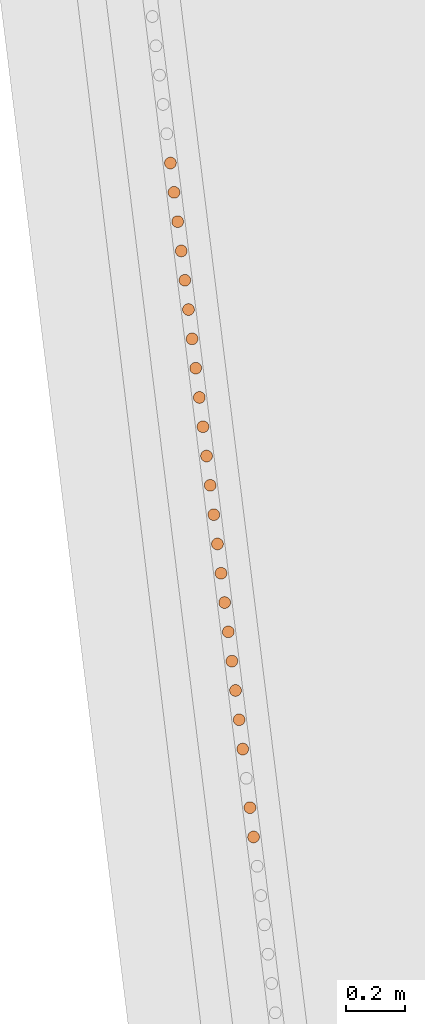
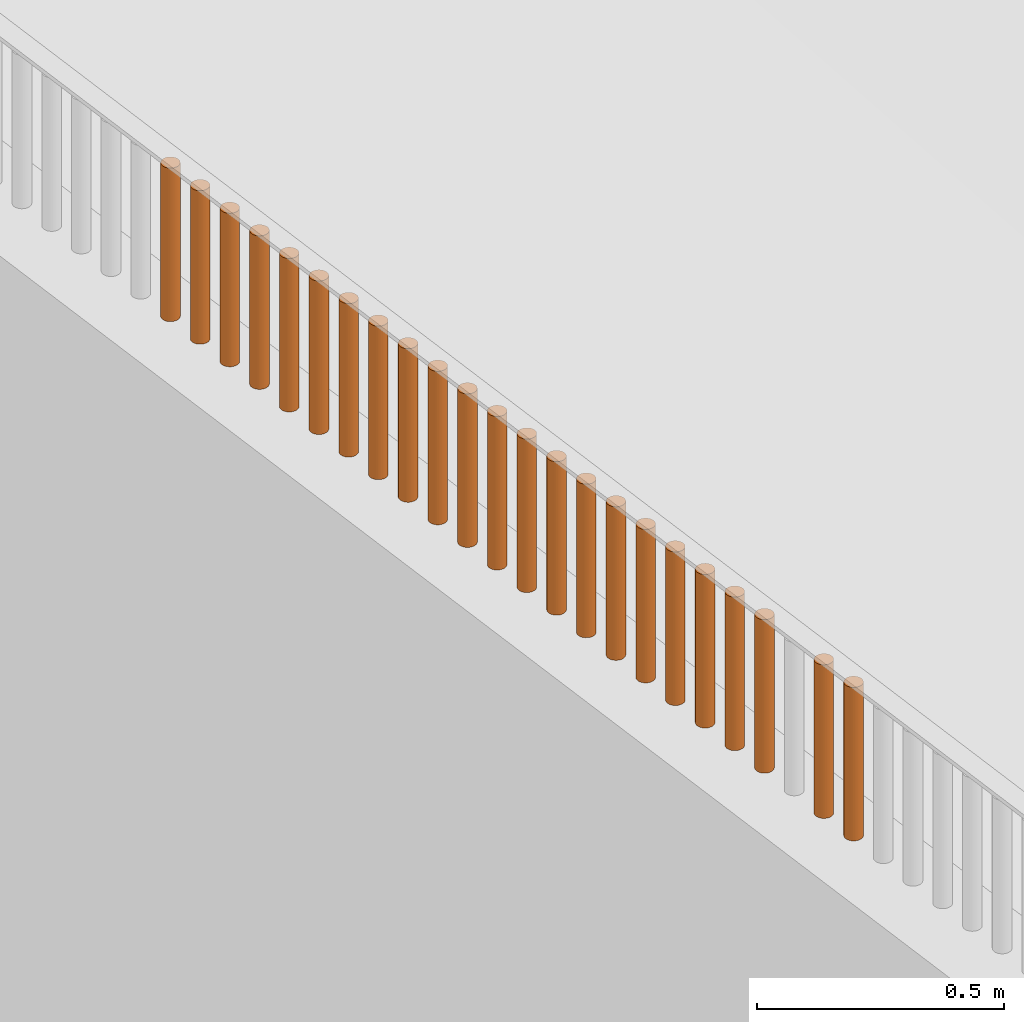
# One storey, part 232 of 1809: 23 proxies, 1 element without a shape of its own.
"""IFC2X3 building model written with IfcOpenShell, lengths in millimetres."""

from ifc_helpers import new_model, entity, si_unit, converted_unit, derived_unit, money_unit, direction, frame, origin_with_axes, place, context, subcontext, project, spatial, faceted_brep, source, transform, mapped, material, type_object, element, aggregate, save


model = new_model("IFC2X3")

# Units and contexts
model_context = context("Model", 3, precision=0.01, world=origin_with_axes(), true_north=direction((0.0, 1.0)))
body_context = subcontext(model_context, "Body", "Model", "MODEL_VIEW")
ifc_project = project(units=[si_unit("LENGTHUNIT", "METRE", prefix="MILLI"), si_unit("AREAUNIT", "SQUARE_METRE"), si_unit("VOLUMEUNIT", "CUBIC_METRE"), converted_unit("PLANEANGLEUNIT", "DEGREE", entity("IfcPlaneAngleMeasure", 0.0174532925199), si_unit("PLANEANGLEUNIT", "RADIAN"), dimensions=[0, 0, 0, 0, 0, 0, 0]), si_unit("SOLIDANGLEUNIT", "STERADIAN"), money_unit("EUR"), converted_unit("TIMEUNIT", "Year", entity("IfcTimeMeasure", 31556926.0), si_unit("TIMEUNIT", "SECOND"), dimensions=[0, 0, 1, 0, 0, 0, 0]), si_unit("MASSUNIT", "GRAM", prefix="KILO"), si_unit("THERMODYNAMICTEMPERATUREUNIT", "DEGREE_CELSIUS"), si_unit("LUMINOUSINTENSITYUNIT", "LUMEN"), si_unit("ENERGYUNIT", "JOULE", prefix="MEGA"), derived_unit("THERMALCONDUCTANCEUNIT", [(si_unit("POWERUNIT", "WATT"), 1), (si_unit("LENGTHUNIT", "METRE"), -1), (si_unit("THERMODYNAMICTEMPERATUREUNIT", "KELVIN"), -1)]), derived_unit("SPECIFICHEATCAPACITYUNIT", [(si_unit("ENERGYUNIT", "JOULE"), 1), (si_unit("MASSUNIT", "GRAM", prefix="KILO"), -1), (si_unit("THERMODYNAMICTEMPERATUREUNIT", "KELVIN"), -1)]), derived_unit("MASSDENSITYUNIT", [(si_unit("MASSUNIT", "GRAM", prefix="KILO"), 1), (si_unit("VOLUMEUNIT", "CUBIC_METRE"), -1)])], contexts=[model_context])

# Site, building, storey
site_placement = place(None, origin_with_axes())
site = spatial("IfcSite", under=ifc_project, at=site_placement, Name="Politse- ja Piirivalveameti ning Päästeameti ühishoone", CompositionType="ELEMENT")
building_placement = place(site_placement, origin_with_axes())
building = spatial("IfcBuilding", under=site, at=building_placement, Name="Politse- ja Piirivalveameti ning Päästeameti ühishoone", CompositionType="ELEMENT")
storey_placement = place(building_placement, origin_with_axes())
storey = spatial("IfcBuildingStorey", under=building, at=storey_placement, Name="Esimene korrus", CompositionType="ELEMENT", Elevation=0.0)

# Proxies
building_element_proxy_type_1 = type_object("IfcBuildingElementProxyType", Name="Railing Type", PredefinedType="NOTDEFINED")
proxy_1_placement = place(storey_placement, frame((-18956.5522504, -53688.4757966, 2100.0), z_axis=(0.0, 0.0, 1.0), x_axis=(1.0, 0.0, 0.0)))
proxy_1 = element("IfcBuildingElementProxy", 1, at=proxy_1_placement, inside=storey, type_object=building_element_proxy_type_1, Name="PIIRDEAED")
ifc_material = material(Name="ET-06_Teras - Konstruktsioon")
building_element_proxy_type_2 = type_object("IfcBuildingElementProxyType", Name="IfcBuildingElementProxy", PredefinedType="NOTDEFINED")
shared_shape_1 = source(origin_with_axes(), body_context, "Body", "Brep", [
    faceted_brep([(0.0, -20.0, 0.0), (3.47296355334, -19.6961550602, 0.0), (3.47296355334, -19.6961550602, 380.000012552), (0.0, -20.0, 380.000012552), (-3.47296355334, -19.6961550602, 0.0), (-6.84040286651, -18.7938524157, 0.0), (-10.0, -17.3205080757, 0.0), (-12.8557521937, -15.3208888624, 0.0), (-15.3208888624, -12.8557521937, 0.0), (-17.3205080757, -10.0, 0.0), (-18.7938524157, -6.84040286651, 0.0), (-19.6961550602, -3.47296355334, 0.0), (-20.0, 0.0, 0.0), (-19.6961550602, 3.47296355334, 0.0), (-18.7938524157, 6.84040286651, 0.0), (-17.3205080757, 10.0, 0.0), (-15.3208888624, 12.8557521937, 0.0), (-12.8557521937, 15.3208888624, 0.0), (-10.0, 17.3205080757, 0.0), (-6.84040286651, 18.7938524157, 0.0), (-3.47296355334, 19.6961550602, 0.0), (0.0, 20.0, 0.0), (3.47296355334, 19.6961550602, 0.0), (6.84040286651, 18.7938524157, 0.0), (10.0, 17.3205080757, 0.0), (12.8557521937, 15.3208888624, 0.0), (15.3208888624, 12.8557521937, 0.0), (17.3205080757, 10.0, 0.0), (18.7938524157, 6.84040286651, 0.0), (19.6961550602, 3.47296355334, 0.0), (20.0, 0.0, 0.0), (19.6961550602, -3.47296355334, 0.0), (18.7938524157, -6.84040286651, 0.0), (17.3205080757, -10.0, 0.0), (15.3208888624, -12.8557521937, 0.0), (12.8557521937, -15.3208888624, 0.0), (10.0, -17.3205080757, 0.0), (6.84040286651, -18.7938524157, 0.0), (6.84040286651, -18.7938524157, 380.000012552), (10.0, -17.3205080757, 380.000012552), (12.8557521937, -15.3208888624, 380.000012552), (15.3208888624, -12.8557521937, 380.000012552), (17.3205080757, -10.0, 380.000012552), (18.7938524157, -6.84040286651, 380.000012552), (19.6961550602, -3.47296355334, 380.000012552), (20.0, 0.0, 380.000012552), (19.6961550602, 3.47296355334, 380.000012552), (18.7938524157, 6.84040286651, 380.000012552), (17.3205080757, 10.0, 380.000012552), (15.3208888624, 12.8557521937, 380.000012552), (12.8557521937, 15.3208888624, 380.000012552), (10.0, 17.3205080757, 380.000012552), (6.84040286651, 18.7938524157, 380.000012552), (3.47296355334, 19.6961550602, 380.000012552), (0.0, 20.0, 380.000012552), (-3.47296355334, 19.6961550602, 380.000012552), (-6.84040286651, 18.7938524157, 380.000012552), (-10.0, 17.3205080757, 380.000012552), (-12.8557521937, 15.3208888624, 380.000012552), (-15.3208888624, 12.8557521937, 380.000012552), (-17.3205080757, 10.0, 380.000012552), (-18.7938524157, 6.84040286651, 380.000012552), (-19.6961550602, 3.47296355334, 380.000012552), (-20.0, 0.0, 380.000012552), (-19.6961550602, -3.47296355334, 380.000012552), (-18.7938524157, -6.84040286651, 380.000012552), (-17.3205080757, -10.0, 380.000012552), (-15.3208888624, -12.8557521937, 380.000012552), (-12.8557521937, -15.3208888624, 380.000012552), (-10.0, -17.3205080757, 380.000012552), (-6.84040286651, -18.7938524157, 380.000012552), (-3.47296355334, -19.6961550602, 380.000012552)], [[[0, 1, 2, 3]], [[0, 4, 5, 6, 7, 8, 9, 10, 11, 12, 13, 14, 15, 16, 17, 18, 19, 20, 21, 22, 23, 24, 25, 26, 27, 28, 29, 30, 31, 32, 33, 34, 35, 36, 37, 1]], [[1, 37, 38, 2]], [[3, 2, 38, 39, 40, 41, 42, 43, 44, 45, 46, 47, 48, 49, 50, 51, 52, 53, 54, 55, 56, 57, 58, 59, 60, 61, 62, 63, 64, 65, 66, 67, 68, 69, 70, 71]], [[4, 0, 3, 71]], [[5, 4, 71, 70]], [[6, 5, 70, 69]], [[7, 6, 69, 68]], [[8, 7, 68, 67]], [[9, 8, 67, 66]], [[10, 9, 66, 65]], [[11, 10, 65, 64]], [[12, 11, 64, 63]], [[13, 12, 63, 62]], [[14, 13, 62, 61]], [[15, 14, 61, 60]], [[16, 15, 60, 59]], [[17, 16, 59, 58]], [[18, 17, 58, 57]], [[19, 18, 57, 56]], [[20, 19, 56, 55]], [[21, 20, 55, 54]], [[22, 21, 54, 53]], [[23, 22, 53, 52]], [[24, 23, 52, 51]], [[25, 24, 51, 50]], [[26, 25, 50, 49]], [[27, 26, 49, 48]], [[28, 27, 48, 47]], [[29, 28, 47, 46]], [[30, 29, 46, 45]], [[31, 30, 45, 44]], [[32, 31, 44, 43]], [[33, 32, 43, 42]], [[34, 33, 42, 41]], [[35, 34, 41, 40]], [[36, 35, 40, 39]], [[37, 36, 39, 38]]]),
])
proxy_2_placement = place(proxy_1_placement, frame((-7208.93939724, 57569.3920033, -1.25517001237e-05), z_axis=(0.0, 0.0, 1.0), x_axis=(1.0, 0.0, 0.0)))
proxy_2 = element("IfcBuildingElementProxy", 2, at=proxy_2_placement, type_object=building_element_proxy_type_2, material=ifc_material, Name="BALUSTER - 001", context=body_context, shape_type="MappedRepresentation", body=[
    mapped(shared_shape_1, transform((0.0, 0.0, 0.0), x_axis=(0.992468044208, 0.122503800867, 0.0), y_axis=(-0.122503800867, 0.992468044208, 0.0), z_axis=(0.0, 0.0, 1.0))),
])
proxy_3_placement = place(proxy_1_placement, frame((-7221.18710215, 57668.6171347, -1.25517001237e-05), z_axis=(0.0, 0.0, 1.0), x_axis=(1.0, 0.0, 0.0)))
proxy_3 = element("IfcBuildingElementProxy", 3, at=proxy_3_placement, type_object=building_element_proxy_type_2, material=ifc_material, Name="BALUSTER - 001", context=body_context, shape_type="MappedRepresentation", body=[
    mapped(shared_shape_1, transform((0.0, 0.0, 0.0), x_axis=(0.992468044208, 0.122503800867, 0.0), y_axis=(-0.122503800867, 0.992468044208, 0.0), z_axis=(0.0, 0.0, 1.0))),
])
proxy_4_placement = place(proxy_1_placement, frame((-7233.43480707, 57767.8422661, -1.25517001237e-05), z_axis=(0.0, 0.0, 1.0), x_axis=(1.0, 0.0, 0.0)))
proxy_4 = element("IfcBuildingElementProxy", 4, at=proxy_4_placement, type_object=building_element_proxy_type_2, material=ifc_material, Name="BALUSTER - 001", context=body_context, shape_type="MappedRepresentation", body=[
    mapped(shared_shape_1, transform((0.0, 0.0, 0.0), x_axis=(0.992468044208, 0.122503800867, 0.0), y_axis=(-0.122503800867, 0.992468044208, 0.0), z_axis=(0.0, 0.0, 1.0))),
])
proxy_5_placement = place(proxy_1_placement, frame((-7245.68251198, 57867.0673975, -1.25517001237e-05), z_axis=(0.0, 0.0, 1.0), x_axis=(1.0, 0.0, 0.0)))
proxy_5 = element("IfcBuildingElementProxy", 5, at=proxy_5_placement, type_object=building_element_proxy_type_2, material=ifc_material, Name="BALUSTER - 001", context=body_context, shape_type="MappedRepresentation", body=[
    mapped(shared_shape_1, transform((0.0, 0.0, 0.0), x_axis=(0.992468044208, 0.122503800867, 0.0), y_axis=(-0.122503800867, 0.992468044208, 0.0), z_axis=(0.0, 0.0, 1.0))),
])
proxy_6_placement = place(proxy_1_placement, frame((-7257.93021689, 57966.292529, -1.25517001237e-05), z_axis=(0.0, 0.0, 1.0), x_axis=(1.0, 0.0, 0.0)))
proxy_6 = element("IfcBuildingElementProxy", 6, at=proxy_6_placement, type_object=building_element_proxy_type_2, material=ifc_material, Name="BALUSTER - 001", context=body_context, shape_type="MappedRepresentation", body=[
    mapped(shared_shape_1, transform((0.0, 0.0, 0.0), x_axis=(0.992468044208, 0.122503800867, 0.0), y_axis=(-0.122503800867, 0.992468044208, 0.0), z_axis=(0.0, 0.0, 1.0))),
])
proxy_7_placement = place(proxy_1_placement, frame((-7270.17792181, 58065.5176604, -1.25517001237e-05), z_axis=(0.0, 0.0, 1.0), x_axis=(1.0, 0.0, 0.0)))
proxy_7 = element("IfcBuildingElementProxy", 7, at=proxy_7_placement, type_object=building_element_proxy_type_2, material=ifc_material, Name="BALUSTER - 001", context=body_context, shape_type="MappedRepresentation", body=[
    mapped(shared_shape_1, transform((0.0, 0.0, 0.0), x_axis=(0.992468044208, 0.122503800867, 0.0), y_axis=(-0.122503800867, 0.992468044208, 0.0), z_axis=(0.0, 0.0, 1.0))),
])
proxy_8_placement = place(proxy_1_placement, frame((-7282.42562672, 58164.7427918, -1.25517001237e-05), z_axis=(0.0, 0.0, 1.0), x_axis=(1.0, 0.0, 0.0)))
proxy_8 = element("IfcBuildingElementProxy", 8, at=proxy_8_placement, type_object=building_element_proxy_type_2, material=ifc_material, Name="BALUSTER - 001", context=body_context, shape_type="MappedRepresentation", body=[
    mapped(shared_shape_1, transform((0.0, 0.0, 0.0), x_axis=(0.992468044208, 0.122503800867, 0.0), y_axis=(-0.122503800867, 0.992468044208, 0.0), z_axis=(0.0, 0.0, 1.0))),
])
proxy_9_placement = place(proxy_1_placement, frame((-7343.66415129, 58660.868449, -1.25517001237e-05), z_axis=(0.0, 0.0, 1.0), x_axis=(1.0, 0.0, 0.0)))
proxy_9 = element("IfcBuildingElementProxy", 9, at=proxy_9_placement, type_object=building_element_proxy_type_2, material=ifc_material, Name="BALUSTER - 001", context=body_context, shape_type="MappedRepresentation", body=[
    mapped(shared_shape_1, transform((0.0, 0.0, 0.0), x_axis=(0.992468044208, 0.122503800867, 0.0), y_axis=(-0.122503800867, 0.992468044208, 0.0), z_axis=(0.0, 0.0, 1.0))),
])
proxy_10_placement = place(proxy_1_placement, frame((-7368.15956111, 58859.3187118, -1.25517001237e-05), z_axis=(0.0, 0.0, 1.0), x_axis=(1.0, 0.0, 0.0)))
proxy_10 = element("IfcBuildingElementProxy", 10, at=proxy_10_placement, type_object=building_element_proxy_type_2, material=ifc_material, Name="BALUSTER - 001", context=body_context, shape_type="MappedRepresentation", body=[
    mapped(shared_shape_1, transform((0.0, 0.0, 0.0), x_axis=(0.992468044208, 0.122503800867, 0.0), y_axis=(-0.122503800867, 0.992468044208, 0.0), z_axis=(0.0, 0.0, 1.0))),
])
proxy_11_placement = place(proxy_1_placement, frame((-7392.65497094, 59057.7689747, -1.25517001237e-05), z_axis=(0.0, 0.0, 1.0), x_axis=(1.0, 0.0, 0.0)))
proxy_11 = element("IfcBuildingElementProxy", 11, at=proxy_11_placement, type_object=building_element_proxy_type_2, material=ifc_material, Name="BALUSTER - 001", context=body_context, shape_type="MappedRepresentation", body=[
    mapped(shared_shape_1, transform((0.0, 0.0, 0.0), x_axis=(0.992468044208, 0.122503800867, 0.0), y_axis=(-0.122503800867, 0.992468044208, 0.0), z_axis=(0.0, 0.0, 1.0))),
])
proxy_12_placement = place(proxy_1_placement, frame((-7404.90267585, 59156.9941061, -1.25517001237e-05), z_axis=(0.0, 0.0, 1.0), x_axis=(1.0, 0.0, 0.0)))
proxy_12 = element("IfcBuildingElementProxy", 12, at=proxy_12_placement, type_object=building_element_proxy_type_2, material=ifc_material, Name="BALUSTER - 001", context=body_context, shape_type="MappedRepresentation", body=[
    mapped(shared_shape_1, transform((0.0, 0.0, 0.0), x_axis=(0.992468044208, 0.122503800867, 0.0), y_axis=(-0.122503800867, 0.992468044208, 0.0), z_axis=(0.0, 0.0, 1.0))),
])
proxy_13_placement = place(proxy_1_placement, frame((-7417.15038076, 59256.2192375, -1.25517001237e-05), z_axis=(0.0, 0.0, 1.0), x_axis=(1.0, 0.0, 0.0)))
proxy_13 = element("IfcBuildingElementProxy", 13, at=proxy_13_placement, type_object=building_element_proxy_type_2, material=ifc_material, Name="BALUSTER - 001", context=body_context, shape_type="MappedRepresentation", body=[
    mapped(shared_shape_1, transform((0.0, 0.0, 0.0), x_axis=(0.992468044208, 0.122503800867, 0.0), y_axis=(-0.122503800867, 0.992468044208, 0.0), z_axis=(0.0, 0.0, 1.0))),
])
shared_shape_2 = source(origin_with_axes(), body_context, "Body", "Brep", [
    faceted_brep([(0.0, -20.0, 0.0), (3.47296355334, -19.6961550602, 0.0), (3.47296355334, -19.6961550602, 380.000012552), (0.0, -20.0, 380.000012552), (-3.47296355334, -19.6961550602, 0.0), (-6.84040286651, -18.7938524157, 0.0), (-10.0, -17.3205080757, 0.0), (-12.8557521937, -15.3208888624, 0.0), (-15.3208888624, -12.8557521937, 0.0), (-17.3205080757, -10.0, 0.0), (-18.7938524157, -6.84040286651, 0.0), (-19.6961550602, -3.47296355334, 0.0), (-20.0, 0.0, 0.0), (-19.6961550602, 3.47296355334, 0.0), (-18.7938524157, 6.84040286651, 0.0), (-17.3205080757, 10.0, 0.0), (-15.3208888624, 12.8557521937, 0.0), (-12.8557521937, 15.3208888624, 0.0), (-10.0, 17.3205080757, 0.0), (-6.84040286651, 18.7938524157, 0.0), (-3.47296355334, 19.6961550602, 0.0), (0.0, 20.0, 0.0), (3.47296355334, 19.6961550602, 0.0), (6.84040286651, 18.7938524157, 0.0), (10.0, 17.3205080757, 0.0), (12.8557521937, 15.3208888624, 0.0), (15.3208888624, 12.8557521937, 0.0), (17.3205080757, 10.0, 0.0), (18.7938524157, 6.84040286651, 0.0), (19.6961550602, 3.47296355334, 0.0), (20.0, 0.0, 0.0), (19.6961550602, -3.47296355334, 0.0), (18.7938524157, -6.84040286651, 0.0), (17.3205080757, -10.0, 0.0), (15.3208888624, -12.8557521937, 0.0), (12.8557521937, -15.3208888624, 0.0), (10.0, -17.3205080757, 0.0), (6.84040286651, -18.7938524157, 0.0), (6.84040286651, -18.7938524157, 380.000012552), (10.0, -17.3205080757, 380.000012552), (12.8557521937, -15.3208888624, 380.000012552), (15.3208888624, -12.8557521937, 380.000012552), (17.3205080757, -10.0, 380.000012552), (18.7938524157, -6.84040286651, 380.000012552), (19.6961550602, -3.47296355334, 380.000012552), (20.0, 0.0, 380.000012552), (19.6961550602, 3.47296355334, 380.000012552), (18.7938524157, 6.84040286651, 380.000012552), (17.3205080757, 10.0, 380.000012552), (15.3208888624, 12.8557521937, 380.000012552), (12.8557521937, 15.3208888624, 380.000012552), (10.0, 17.3205080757, 380.000012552), (6.84040286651, 18.7938524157, 380.000012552), (3.47296355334, 19.6961550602, 380.000012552), (0.0, 20.0, 380.000012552), (-3.47296355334, 19.6961550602, 380.000012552), (-6.84040286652, 18.7938524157, 380.000012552), (-10.0, 17.3205080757, 380.000012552), (-12.8557521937, 15.3208888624, 380.000012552), (-15.3208888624, 12.8557521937, 380.000012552), (-17.3205080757, 10.0, 380.000012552), (-18.7938524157, 6.84040286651, 380.000012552), (-19.6961550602, 3.47296355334, 380.000012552), (-20.0, 0.0, 380.000012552), (-19.6961550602, -3.47296355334, 380.000012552), (-18.7938524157, -6.84040286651, 380.000012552), (-17.3205080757, -10.0, 380.000012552), (-15.3208888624, -12.8557521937, 380.000012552), (-12.8557521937, -15.3208888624, 380.000012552), (-10.0, -17.3205080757, 380.000012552), (-6.84040286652, -18.7938524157, 380.000012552), (-3.47296355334, -19.6961550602, 380.000012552)], [[[0, 1, 2, 3]], [[0, 4, 5, 6, 7, 8, 9, 10, 11, 12, 13, 14, 15, 16, 17, 18, 19, 20, 21, 22, 23, 24, 25, 26, 27, 28, 29, 30, 31, 32, 33, 34, 35, 36, 37, 1]], [[1, 37, 38, 2]], [[3, 2, 38, 39, 40, 41, 42, 43, 44, 45, 46, 47, 48, 49, 50, 51, 52, 53, 54, 55, 56, 57, 58, 59, 60, 61, 62, 63, 64, 65, 66, 67, 68, 69, 70, 71]], [[4, 0, 3, 71]], [[5, 4, 71, 70]], [[6, 5, 70, 69]], [[7, 6, 69, 68]], [[8, 7, 68, 67]], [[9, 8, 67, 66]], [[10, 9, 66, 65]], [[11, 10, 65, 64]], [[12, 11, 64, 63]], [[13, 12, 63, 62]], [[14, 13, 62, 61]], [[15, 14, 61, 60]], [[16, 15, 60, 59]], [[17, 16, 59, 58]], [[18, 17, 58, 57]], [[19, 18, 57, 56]], [[20, 19, 56, 55]], [[21, 20, 55, 54]], [[22, 21, 54, 53]], [[23, 22, 53, 52]], [[24, 23, 52, 51]], [[25, 24, 51, 50]], [[26, 25, 50, 49]], [[27, 26, 49, 48]], [[28, 27, 48, 47]], [[29, 28, 47, 46]], [[30, 29, 46, 45]], [[31, 30, 45, 44]], [[32, 31, 44, 43]], [[33, 32, 43, 42]], [[34, 33, 42, 41]], [[35, 34, 41, 40]], [[36, 35, 40, 39]], [[37, 36, 39, 38]]]),
])
proxy_14_placement = place(proxy_1_placement, frame((-7331.41644637, 58561.6433175, -1.25517001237e-05), z_axis=(0.0, 0.0, 1.0), x_axis=(1.0, 0.0, 0.0)))
proxy_14 = element("IfcBuildingElementProxy", 14, at=proxy_14_placement, type_object=building_element_proxy_type_2, material=ifc_material, Name="BALUSTER - 001", context=body_context, shape_type="MappedRepresentation", body=[
    mapped(shared_shape_2, transform((0.0, 0.0, 0.0), x_axis=(0.992468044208, 0.122503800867, 0.0), y_axis=(-0.122503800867, 0.992468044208, 0.0), z_axis=(0.0, 0.0, 1.0))),
])
proxy_15_placement = place(proxy_1_placement, frame((-7355.9118562, 58760.0935804, -1.25517001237e-05), z_axis=(0.0, 0.0, 1.0), x_axis=(1.0, 0.0, 0.0)))
proxy_15 = element("IfcBuildingElementProxy", 15, at=proxy_15_placement, type_object=building_element_proxy_type_2, material=ifc_material, Name="BALUSTER - 001", context=body_context, shape_type="MappedRepresentation", body=[
    mapped(shared_shape_2, transform((0.0, 0.0, 0.0), x_axis=(0.992468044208, 0.122503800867, 0.0), y_axis=(-0.122503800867, 0.992468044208, 0.0), z_axis=(0.0, 0.0, 1.0))),
])
proxy_16_placement = place(proxy_1_placement, frame((-7380.40726602, 58958.5438432, -1.25517001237e-05), z_axis=(0.0, 0.0, 1.0), x_axis=(1.0, 0.0, 0.0)))
proxy_16 = element("IfcBuildingElementProxy", 16, at=proxy_16_placement, type_object=building_element_proxy_type_2, material=ifc_material, Name="BALUSTER - 001", context=body_context, shape_type="MappedRepresentation", body=[
    mapped(shared_shape_2, transform((0.0, 0.0, 0.0), x_axis=(0.992468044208, 0.122503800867, 0.0), y_axis=(-0.122503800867, 0.992468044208, 0.0), z_axis=(0.0, 0.0, 1.0))),
])
shared_shape_3 = source(origin_with_axes(), body_context, "Body", "Brep", [
    faceted_brep([(0.0, -20.0, 0.0), (3.47296355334, -19.6961550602, 0.0), (3.47296355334, -19.6961550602, 380.000012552), (0.0, -20.0, 380.000012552), (-3.47296355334, -19.6961550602, 0.0), (-6.84040286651, -18.7938524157, 0.0), (-10.0, -17.3205080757, 0.0), (-12.8557521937, -15.3208888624, 0.0), (-15.3208888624, -12.8557521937, 0.0), (-17.3205080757, -10.0, 0.0), (-18.7938524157, -6.84040286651, 0.0), (-19.6961550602, -3.47296355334, 0.0), (-20.0, 0.0, 0.0), (-19.6961550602, 3.47296355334, 0.0), (-18.7938524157, 6.84040286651, 0.0), (-17.3205080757, 10.0, 0.0), (-15.3208888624, 12.8557521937, 0.0), (-12.8557521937, 15.3208888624, 0.0), (-10.0, 17.3205080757, 0.0), (-6.84040286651, 18.7938524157, 0.0), (-3.47296355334, 19.6961550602, 0.0), (0.0, 20.0, 0.0), (3.47296355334, 19.6961550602, 0.0), (6.84040286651, 18.7938524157, 0.0), (10.0, 17.3205080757, 0.0), (12.8557521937, 15.3208888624, 0.0), (15.3208888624, 12.8557521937, 0.0), (17.3205080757, 10.0, 0.0), (18.7938524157, 6.84040286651, 0.0), (19.6961550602, 3.47296355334, 0.0), (20.0, 0.0, 0.0), (19.6961550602, -3.47296355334, 0.0), (18.7938524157, -6.84040286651, 0.0), (17.3205080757, -10.0, 0.0), (15.3208888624, -12.8557521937, 0.0), (12.8557521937, -15.3208888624, 0.0), (10.0, -17.3205080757, 0.0), (6.84040286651, -18.7938524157, 0.0), (6.84040286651, -18.7938524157, 380.000012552), (10.0, -17.3205080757, 380.000012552), (12.8557521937, -15.3208888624, 380.000012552), (15.3208888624, -12.8557521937, 380.000012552), (17.3205080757, -10.0, 380.000012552), (18.7938524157, -6.84040286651, 380.000012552), (19.6961550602, -3.47296355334, 380.000012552), (20.0, 0.0, 380.000012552), (19.6961550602, 3.47296355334, 380.000012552), (18.7938524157, 6.84040286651, 380.000012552), (17.3205080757, 10.0, 380.000012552), (15.3208888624, 12.8557521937, 380.000012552), (12.8557521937, 15.3208888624, 380.000012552), (10.0, 17.3205080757, 380.000012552), (6.84040286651, 18.7938524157, 380.000012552), (3.47296355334, 19.6961550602, 380.000012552), (0.0, 20.0, 380.000012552), (-3.47296355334, 19.6961550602, 380.000012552), (-6.84040286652, 18.7938524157, 380.000012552), (-10.0, 17.3205080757, 380.000012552), (-12.8557521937, 15.3208888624, 380.000012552), (-15.3208888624, 12.8557521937, 380.000012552), (-17.3205080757, 10.0, 380.000012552), (-18.7938524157, 6.84040286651, 380.000012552), (-19.6961550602, 3.47296355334, 380.000012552), (-20.0, 0.0, 380.000012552), (-19.6961550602, -3.47296355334, 380.000012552), (-18.7938524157, -6.84040286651, 380.000012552), (-17.3205080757, -10.0, 380.000012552), (-15.3208888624, -12.8557521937, 380.000012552), (-12.8557521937, -15.3208888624, 380.000012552), (-10.0, -17.3205080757, 380.000012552), (-6.84040286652, -18.7938524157, 380.000012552), (-3.47296355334, -19.6961550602, 380.000012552)], [[[0, 1, 2, 3]], [[0, 4, 5, 6, 7, 8, 9, 10, 11, 12, 13, 14, 15, 16, 17, 18, 19, 20, 21, 22, 23, 24, 25, 26, 27, 28, 29, 30, 31, 32, 33, 34, 35, 36, 37, 1]], [[1, 37, 38, 2]], [[3, 2, 38, 39, 40, 41, 42, 43, 44, 45, 46, 47, 48, 49, 50, 51, 52, 53, 54, 55, 56, 57, 58, 59, 60, 61, 62, 63, 64, 65, 66, 67, 68, 69, 70, 71]], [[4, 0, 3, 71]], [[5, 4, 71, 70]], [[6, 5, 70, 69]], [[7, 6, 69, 68]], [[8, 7, 68, 67]], [[9, 8, 67, 66]], [[10, 9, 66, 65]], [[11, 10, 65, 64]], [[12, 11, 64, 63]], [[13, 12, 63, 62]], [[14, 13, 62, 61]], [[15, 14, 61, 60]], [[16, 15, 60, 59]], [[17, 16, 59, 58]], [[18, 17, 58, 57]], [[19, 18, 57, 56]], [[20, 19, 56, 55]], [[21, 20, 55, 54]], [[22, 21, 54, 53]], [[23, 22, 53, 52]], [[24, 23, 52, 51]], [[25, 24, 51, 50]], [[26, 25, 50, 49]], [[27, 26, 49, 48]], [[28, 27, 48, 47]], [[29, 28, 47, 46]], [[30, 29, 46, 45]], [[31, 30, 45, 44]], [[32, 31, 44, 43]], [[33, 32, 43, 42]], [[34, 33, 42, 41]], [[35, 34, 41, 40]], [[36, 35, 40, 39]], [[37, 36, 39, 38]]]),
])
proxy_17_placement = place(proxy_1_placement, frame((-7147.70087268, 57073.2663461, -1.25517001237e-05), z_axis=(0.0, 0.0, 1.0), x_axis=(1.0, 0.0, 0.0)))
proxy_17 = element("IfcBuildingElementProxy", 17, at=proxy_17_placement, type_object=building_element_proxy_type_2, material=ifc_material, Name="BALUSTER - 001", context=body_context, shape_type="MappedRepresentation", body=[
    mapped(shared_shape_3, transform((0.0, 0.0, 0.0), x_axis=(0.992468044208, 0.122503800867, 0.0), y_axis=(-0.122503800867, 0.992468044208, 0.0), z_axis=(0.0, 0.0, 1.0))),
])
proxy_18_placement = place(proxy_1_placement, frame((-7172.1962825, 57271.716609, -1.25517001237e-05), z_axis=(0.0, 0.0, 1.0), x_axis=(1.0, 0.0, 0.0)))
proxy_18 = element("IfcBuildingElementProxy", 18, at=proxy_18_placement, type_object=building_element_proxy_type_2, material=ifc_material, Name="BALUSTER - 001", context=body_context, shape_type="MappedRepresentation", body=[
    mapped(shared_shape_3, transform((0.0, 0.0, 0.0), x_axis=(0.992468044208, 0.122503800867, 0.0), y_axis=(-0.122503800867, 0.992468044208, 0.0), z_axis=(0.0, 0.0, 1.0))),
])
proxy_19_placement = place(proxy_1_placement, frame((-7184.44398741, 57370.9417404, -1.25517001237e-05), z_axis=(0.0, 0.0, 1.0), x_axis=(1.0, 0.0, 0.0)))
proxy_19 = element("IfcBuildingElementProxy", 19, at=proxy_19_placement, type_object=building_element_proxy_type_2, material=ifc_material, Name="BALUSTER - 001", context=body_context, shape_type="MappedRepresentation", body=[
    mapped(shared_shape_3, transform((0.0, 0.0, 0.0), x_axis=(0.992468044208, 0.122503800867, 0.0), y_axis=(-0.122503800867, 0.992468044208, 0.0), z_axis=(0.0, 0.0, 1.0))),
])
proxy_20_placement = place(proxy_1_placement, frame((-7196.69169233, 57470.1668718, -1.25517001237e-05), z_axis=(0.0, 0.0, 1.0), x_axis=(1.0, 0.0, 0.0)))
proxy_20 = element("IfcBuildingElementProxy", 20, at=proxy_20_placement, type_object=building_element_proxy_type_2, material=ifc_material, Name="BALUSTER - 001", context=body_context, shape_type="MappedRepresentation", body=[
    mapped(shared_shape_3, transform((0.0, 0.0, 0.0), x_axis=(0.992468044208, 0.122503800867, 0.0), y_axis=(-0.122503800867, 0.992468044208, 0.0), z_axis=(0.0, 0.0, 1.0))),
])
proxy_21_placement = place(proxy_1_placement, frame((-7294.67333163, 58263.9679232, -1.25517001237e-05), z_axis=(0.0, 0.0, 1.0), x_axis=(1.0, 0.0, 0.0)))
proxy_21 = element("IfcBuildingElementProxy", 21, at=proxy_21_placement, type_object=building_element_proxy_type_2, material=ifc_material, Name="BALUSTER - 001", context=body_context, shape_type="MappedRepresentation", body=[
    mapped(shared_shape_3, transform((0.0, 0.0, 0.0), x_axis=(0.992468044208, 0.122503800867, 0.0), y_axis=(-0.122503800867, 0.992468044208, 0.0), z_axis=(0.0, 0.0, 1.0))),
])
proxy_22_placement = place(proxy_1_placement, frame((-7306.92103655, 58363.1930547, -1.25517001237e-05), z_axis=(0.0, 0.0, 1.0), x_axis=(1.0, 0.0, 0.0)))
proxy_22 = element("IfcBuildingElementProxy", 22, at=proxy_22_placement, type_object=building_element_proxy_type_2, material=ifc_material, Name="BALUSTER - 001", context=body_context, shape_type="MappedRepresentation", body=[
    mapped(shared_shape_3, transform((0.0, 0.0, 0.0), x_axis=(0.992468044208, 0.122503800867, 0.0), y_axis=(-0.122503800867, 0.992468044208, 0.0), z_axis=(0.0, 0.0, 1.0))),
])
shared_shape_4 = source(origin_with_axes(), body_context, "Body", "Brep", [
    faceted_brep([(0.0, -20.0, 0.0), (3.47296355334, -19.6961550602, 0.0), (3.47296355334, -19.6961550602, 380.000012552), (0.0, -20.0, 380.000012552), (-3.47296355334, -19.6961550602, 0.0), (-6.84040286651, -18.7938524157, 0.0), (-10.0, -17.3205080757, 0.0), (-12.8557521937, -15.3208888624, 0.0), (-15.3208888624, -12.8557521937, 0.0), (-17.3205080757, -10.0, 0.0), (-18.7938524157, -6.84040286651, 0.0), (-19.6961550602, -3.47296355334, 0.0), (-20.0, 0.0, 0.0), (-19.6961550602, 3.47296355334, 0.0), (-18.7938524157, 6.84040286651, 0.0), (-17.3205080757, 10.0, 0.0), (-15.3208888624, 12.8557521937, 0.0), (-12.8557521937, 15.3208888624, 0.0), (-10.0, 17.3205080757, 0.0), (-6.84040286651, 18.7938524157, 0.0), (-3.47296355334, 19.6961550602, 0.0), (0.0, 20.0, 0.0), (3.47296355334, 19.6961550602, 0.0), (6.84040286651, 18.7938524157, 0.0), (10.0, 17.3205080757, 0.0), (12.8557521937, 15.3208888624, 0.0), (15.3208888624, 12.8557521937, 0.0), (17.3205080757, 10.0, 0.0), (18.7938524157, 6.84040286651, 0.0), (19.6961550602, 3.47296355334, 0.0), (20.0, 0.0, 0.0), (19.6961550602, -3.47296355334, 0.0), (18.7938524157, -6.84040286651, 0.0), (17.3205080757, -10.0, 0.0), (15.3208888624, -12.8557521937, 0.0), (12.8557521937, -15.3208888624, 0.0), (10.0, -17.3205080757, 0.0), (6.84040286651, -18.7938524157, 0.0), (6.84040286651, -18.7938524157, 380.000012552), (10.0, -17.3205080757, 380.000012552), (12.8557521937, -15.3208888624, 380.000012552), (15.3208888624, -12.8557521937, 380.000012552), (17.3205080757, -10.0, 380.000012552), (18.7938524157, -6.84040286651, 380.000012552), (19.6961550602, -3.47296355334, 380.000012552), (20.0, 0.0, 380.000012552), (19.6961550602, 3.47296355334, 380.000012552), (18.7938524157, 6.84040286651, 380.000012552), (17.3205080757, 10.0, 380.000012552), (15.3208888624, 12.8557521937, 380.000012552), (12.8557521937, 15.3208888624, 380.000012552), (10.0, 17.3205080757, 380.000012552), (6.84040286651, 18.7938524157, 380.000012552), (3.47296355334, 19.6961550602, 380.000012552), (0.0, 20.0, 380.000012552), (-3.47296355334, 19.6961550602, 380.000012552), (-6.84040286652, 18.7938524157, 380.000012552), (-10.0, 17.3205080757, 380.000012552), (-12.8557521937, 15.3208888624, 380.000012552), (-15.3208888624, 12.8557521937, 380.000012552), (-17.3205080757, 10.0, 380.000012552), (-18.7938524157, 6.84040286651, 380.000012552), (-19.6961550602, 3.47296355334, 380.000012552), (-20.0, 0.0, 380.000012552), (-19.6961550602, -3.47296355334, 380.000012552), (-18.7938524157, -6.84040286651, 380.000012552), (-17.3205080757, -10.0, 380.000012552), (-15.3208888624, -12.8557521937, 380.000012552), (-12.8557521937, -15.3208888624, 380.000012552), (-10.0, -17.3205080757, 380.000012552), (-6.84040286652, -18.7938524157, 380.000012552), (-3.47296355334, -19.6961550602, 380.000012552)], [[[0, 1, 2, 3]], [[0, 4, 5, 6, 7, 8, 9, 10, 11, 12, 13, 14, 15, 16, 17, 18, 19, 20, 21, 22, 23, 24, 25, 26, 27, 28, 29, 30, 31, 32, 33, 34, 35, 36, 37, 1]], [[1, 37, 38, 2]], [[3, 2, 38, 39, 40, 41, 42, 43, 44, 45, 46, 47, 48, 49, 50, 51, 52, 53, 54, 55, 56, 57, 58, 59, 60, 61, 62, 63, 64, 65, 66, 67, 68, 69, 70, 71]], [[4, 0, 3, 71]], [[5, 4, 71, 70]], [[6, 5, 70, 69]], [[7, 6, 69, 68]], [[8, 7, 68, 67]], [[9, 8, 67, 66]], [[10, 9, 66, 65]], [[11, 10, 65, 64]], [[12, 11, 64, 63]], [[13, 12, 63, 62]], [[14, 13, 62, 61]], [[15, 14, 61, 60]], [[16, 15, 60, 59]], [[17, 16, 59, 58]], [[18, 17, 58, 57]], [[19, 18, 57, 56]], [[20, 19, 56, 55]], [[21, 20, 55, 54]], [[22, 21, 54, 53]], [[23, 22, 53, 52]], [[24, 23, 52, 51]], [[25, 24, 51, 50]], [[26, 25, 50, 49]], [[27, 26, 49, 48]], [[28, 27, 48, 47]], [[29, 28, 47, 46]], [[30, 29, 46, 45]], [[31, 30, 45, 44]], [[32, 31, 44, 43]], [[33, 32, 43, 42]], [[34, 33, 42, 41]], [[35, 34, 41, 40]], [[36, 35, 40, 39]], [[37, 36, 39, 38]]]),
])
proxy_23_placement = place(proxy_1_placement, frame((-7135.45316776, 56974.0412147, -1.25517001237e-05), z_axis=(0.0, 0.0, 1.0), x_axis=(1.0, 0.0, 0.0)))
proxy_23 = element("IfcBuildingElementProxy", 23, at=proxy_23_placement, type_object=building_element_proxy_type_2, material=ifc_material, Name="BALUSTER - 001", context=body_context, shape_type="MappedRepresentation", body=[
    mapped(shared_shape_4, transform((0.0, 0.0, 0.0), x_axis=(0.992468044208, 0.122503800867, 0.0), y_axis=(-0.122503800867, 0.992468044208, 0.0), z_axis=(0.0, 0.0, 1.0))),
])
proxy_24_placement = place(proxy_1_placement, frame((-7319.16874146, 58462.4181861, -1.25517001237e-05), z_axis=(0.0, 0.0, 1.0), x_axis=(1.0, 0.0, 0.0)))
proxy_24 = element("IfcBuildingElementProxy", 24, at=proxy_24_placement, type_object=building_element_proxy_type_2, material=ifc_material, Name="BALUSTER - 001", context=body_context, shape_type="MappedRepresentation", body=[
    mapped(shared_shape_4, transform((0.0, 0.0, 0.0), x_axis=(0.992468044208, 0.122503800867, 0.0), y_axis=(-0.122503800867, 0.992468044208, 0.0), z_axis=(0.0, 0.0, 1.0))),
])
aggregate(proxy_1, [proxy_23, proxy_17, proxy_18, proxy_19, proxy_20, proxy_2, proxy_3, proxy_4, proxy_5, proxy_6, proxy_7, proxy_8, proxy_21, proxy_22, proxy_24, proxy_14, proxy_9, proxy_15, proxy_10, proxy_16, proxy_11, proxy_12, proxy_13])

save(model, "model.ifc")
